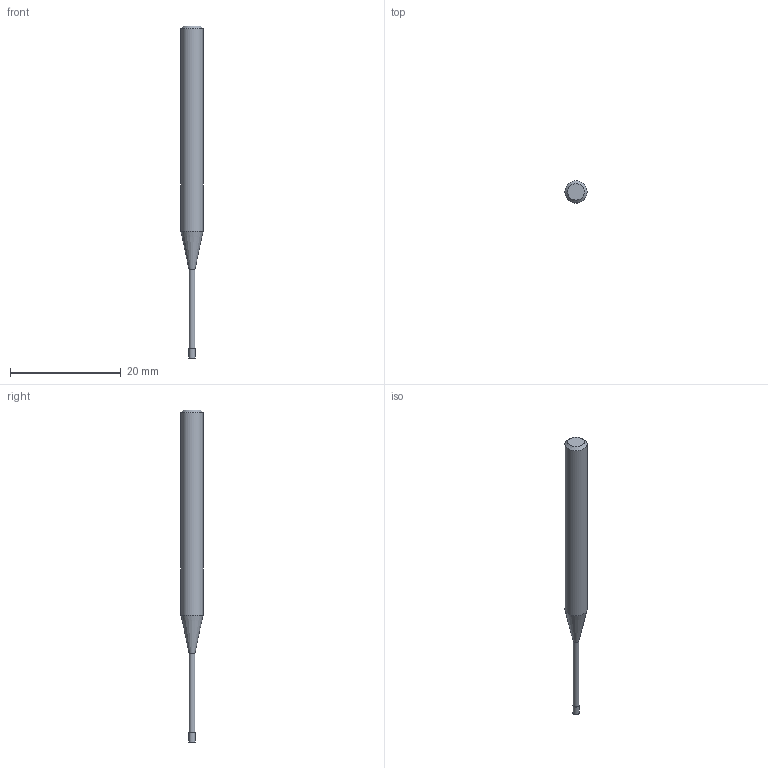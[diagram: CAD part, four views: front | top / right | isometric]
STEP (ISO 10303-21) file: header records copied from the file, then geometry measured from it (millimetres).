
FILE_DESCRIPTION((''),'2;1');
FILE_NAME('C:\Users\nsx150\AppData\Local\Temp\Mastercam 2021\17T8Q8S9EB\TEMP.step','2021-04-21T16:14:23',(''),(''),'STEP Write','Mastercam 2021 ... CNC Software, Inc.','');
FILE_SCHEMA(('AUTOMOTIVE_DESIGN'));
Length unit declared in the file: millimetre
Products named in the file (1): None
Bounding box: 4 x 4 x 60 mm (x, y, z)
Volume: 517 mm3; surface area: 586.4 mm2
Topology: 2 solids, 2 shells, 9 faces, 12 edges, 7 vertices
Faces by surface type: plane 4, cylinder 3, cone 2
Full cylindrical faces by diameter (mm): 1.05 x1, 1.1 x1, 4 x1
Entity records: 211 total; most frequent: DIRECTION 36, CARTESIAN_POINT 25, AXIS2_PLACEMENT_3D 18, ORIENTED_EDGE 14, EDGE_LOOP 14, STYLED_ITEM 12, ADVANCED_FACE 9, FACE_BOUND 8
